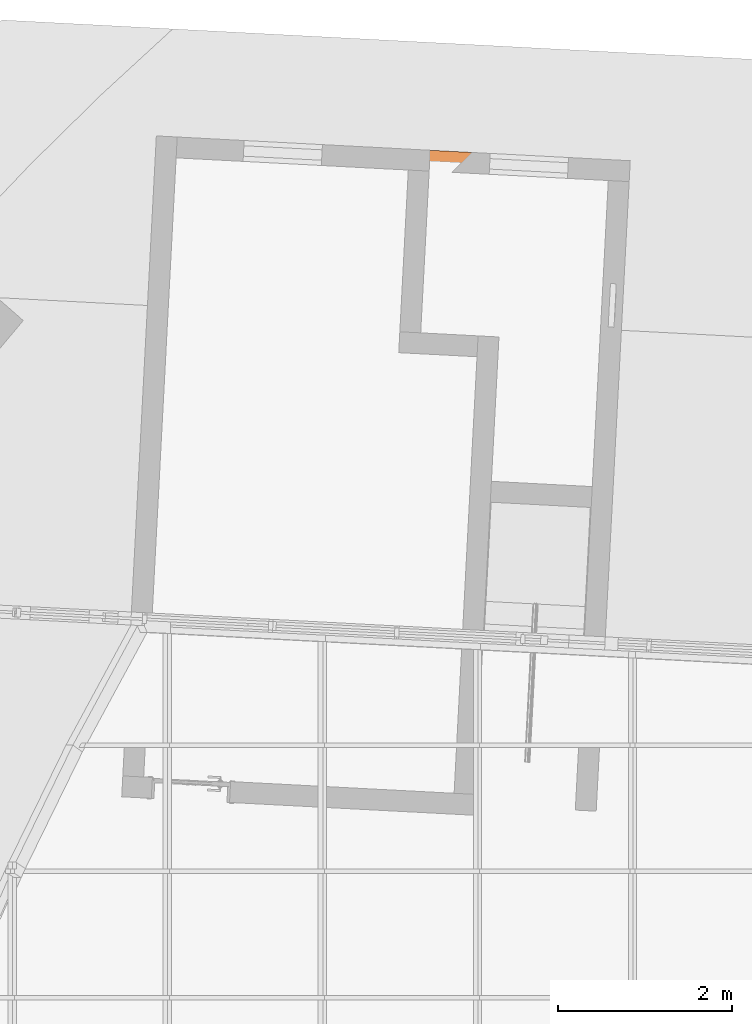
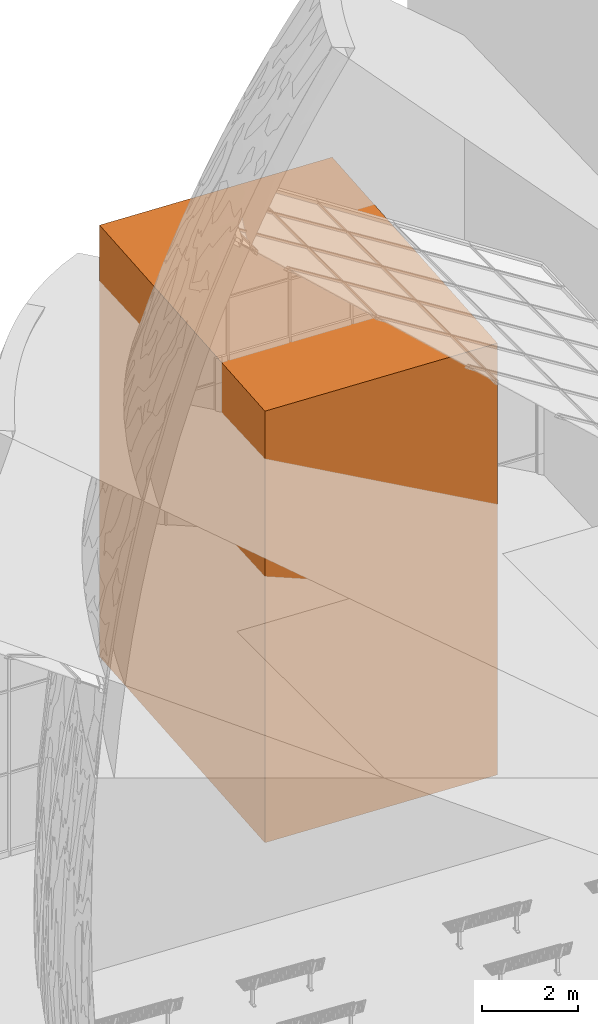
# One storey, part 82 of 82: 1 proxy.
"""IFC2X3 building model written with IfcOpenShell, lengths in millimetres."""

from ifc_helpers import new_model, entity, si_unit, converted_unit, derived_unit, direction, frame, origin, place, context, subcontext, project, spatial, faceted_brep, source, transform, mapped, material, type_object, type_shapes, element, save


model = new_model("IFC2X3")

# Units and contexts
model_context = context("Model", 3, precision=0.01, world=origin(), true_north=direction((6.12303176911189e-17, 1.0)))
body_context = subcontext(model_context, "Body", "Model", "MODEL_VIEW")
ifc_project = project(units=[si_unit("LENGTHUNIT", "METRE", prefix="MILLI"), si_unit("AREAUNIT", "SQUARE_METRE"), si_unit("VOLUMEUNIT", "CUBIC_METRE"), converted_unit("PLANEANGLEUNIT", "DEGREE", entity("IfcRatioMeasure", 0.0174532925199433), si_unit("PLANEANGLEUNIT", "RADIAN"), dimensions=[0, 0, 0, 0, 0, 0, 0]), si_unit("MASSUNIT", "GRAM", prefix="KILO"), derived_unit("MASSDENSITYUNIT", [(si_unit("MASSUNIT", "GRAM", prefix="KILO"), 1), (si_unit("LENGTHUNIT", "METRE"), -3)]), si_unit("TIMEUNIT", "SECOND"), si_unit("FREQUENCYUNIT", "HERTZ"), si_unit("THERMODYNAMICTEMPERATUREUNIT", "DEGREE_CELSIUS"), derived_unit("THERMALTRANSMITTANCEUNIT", [(si_unit("MASSUNIT", "GRAM", prefix="KILO"), 1), (si_unit("THERMODYNAMICTEMPERATUREUNIT", "KELVIN"), -1), (si_unit("TIMEUNIT", "SECOND"), -3)]), derived_unit("VOLUMETRICFLOWRATEUNIT", [(si_unit("LENGTHUNIT", "METRE"), 3), (si_unit("TIMEUNIT", "SECOND"), -1)]), si_unit("ELECTRICCURRENTUNIT", "AMPERE"), si_unit("ELECTRICVOLTAGEUNIT", "VOLT"), si_unit("POWERUNIT", "WATT"), si_unit("FORCEUNIT", "NEWTON", prefix="KILO"), si_unit("ILLUMINANCEUNIT", "LUX"), si_unit("LUMINOUSFLUXUNIT", "LUMEN"), si_unit("LUMINOUSINTENSITYUNIT", "CANDELA"), derived_unit("USERDEFINED", [(si_unit("MASSUNIT", "GRAM", prefix="KILO"), -1), (si_unit("LENGTHUNIT", "METRE"), -2), (si_unit("TIMEUNIT", "SECOND"), 3), (si_unit("LUMINOUSFLUXUNIT", "LUMEN"), 1)]), derived_unit("LINEARVELOCITYUNIT", [(si_unit("LENGTHUNIT", "METRE"), 1), (si_unit("TIMEUNIT", "SECOND"), -1)]), si_unit("PRESSUREUNIT", "PASCAL"), derived_unit("USERDEFINED", [(si_unit("LENGTHUNIT", "METRE"), -2), (si_unit("MASSUNIT", "GRAM", prefix="KILO"), 1), (si_unit("TIMEUNIT", "SECOND"), -2)])], contexts=[model_context])

# Site, building, storey
site_placement = place(None, origin())
site = spatial("IfcSite", under=ifc_project, at=site_placement, Name="表面", CompositionType="ELEMENT")
building_placement = place(site_placement, origin())
building = spatial("IfcBuilding", under=site, at=building_placement, CompositionType="ELEMENT")
storey_placement = place(building_placement, origin())
storey = spatial("IfcBuildingStorey", under=building, at=storey_placement, Name="1F", CompositionType="ELEMENT", Elevation=0.0)

# Proxy
ifc_material = material(Name="默认体量")
building_element_proxy_type = type_object("IfcBuildingElementProxyType", Name="北部体量", PredefinedType="NOTDEFINED", material=ifc_material)
shared_shape = source(origin(), body_context, "Body", "Brep", [
    faceted_brep([(5840.28423185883, 7589.58446413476, 0.0), (397.753267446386, 7874.81542565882, 0.0), (397.753267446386, 7874.81542565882, 11000.0), (5840.28423185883, 7589.58446413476, 11000.0), (107.288710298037, 2332.42150777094, 0.0), (107.288710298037, 2332.42150777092, 11000.0), (0.0, 285.230961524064, 0.0), (5442.53096441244, 0.0, 0.0), (5442.53096441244, 0.0, 11000.0), (0.0, 285.230961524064, 11000.0), (5549.81967471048, 2047.19054624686, 11000.0), (5549.81967471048, 2047.19054624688, 0.0)], [[[0, 1, 2, 3]], [[2, 1, 4, 5]], [[6, 7, 8, 9]], [[0, 3, 10, 11]], [[3, 2, 5, 10]], [[1, 0, 11, 7, 6, 4]], [[6, 9, 5, 4]], [[8, 7, 11, 10]], [[9, 8, 10, 5]]]),
])
type_shapes(building_element_proxy_type, [shared_shape])
proxy_placement = place(storey_placement, frame((-25785.1403087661, 232.714618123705, 0.0)))
element("IfcBuildingElementProxy", 1, at=proxy_placement, inside=storey, type_object=building_element_proxy_type, material=ifc_material, Name="北部体量:北部体量", ObjectType="北部体量", context=body_context, shape_type="MappedRepresentation", body=[
    mapped(shared_shape, transform((0.0, 0.0, 0.0), scale=1.0)),
])

save(model, "model.ifc")
